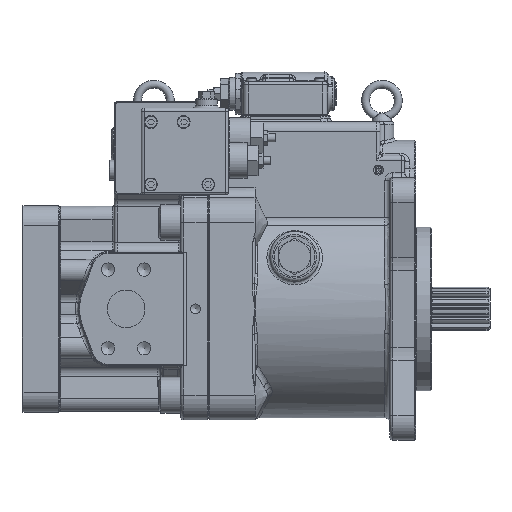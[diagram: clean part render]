
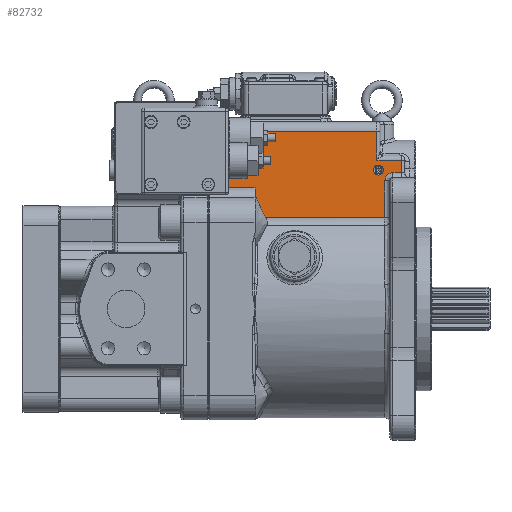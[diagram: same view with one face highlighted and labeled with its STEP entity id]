
A CAD part, left-side view. The second image highlights one B-rep face of the part: STEP entity #82732.
In plain terms, the highlighted planar face has unit normal (-1, 0, 0).
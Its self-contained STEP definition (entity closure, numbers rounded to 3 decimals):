
#65556=CARTESIAN_POINT('',(-66.669,49.394,117.955));
#65557=VERTEX_POINT('',#65556);
#65558=CARTESIAN_POINT('',(-66.669,49.394,112.955));
#65559=DIRECTION('',(1.0,0.0,0.0));
#65560=DIRECTION('',(0.0,0.0,1.0));
#65561=AXIS2_PLACEMENT_3D('',#65558,#65559,#65560);
#65562=CIRCLE('',#65561,5.);
#65563=EDGE_CURVE('',#65557,#65557,#65562,.T.);
#68144=CARTESIAN_POINT('',(-66.669,219.894,151.955));
#68145=VERTEX_POINT('',#68144);
#68153=CARTESIAN_POINT('',(-66.669,50.894,151.955));
#68154=VERTEX_POINT('',#68153);
#68155=CARTESIAN_POINT('',(-66.669,219.894,151.955));
#68156=DIRECTION('',(0.0,-1.0,0.0));
#68157=VECTOR('',#68156,169.);
#68158=LINE('',#68155,#68157);
#68159=EDGE_CURVE('',#68145,#68154,#68158,.T.);
#71754=CARTESIAN_POINT('',(-66.669,163.32,64.993));
#71755=VERTEX_POINT('',#71754);
#71763=CARTESIAN_POINT('',(-66.669,173.894,86.955));
#71764=VERTEX_POINT('',#71763);
#71765=CARTESIAN_POINT('',(-66.669,173.894,86.955));
#71766=DIRECTION('',(0.0,-0.434,-0.901));
#71767=VECTOR('',#71766,24.375);
#71768=LINE('',#71765,#71767);
#71769=EDGE_CURVE('',#71764,#71755,#71768,.T.);
#78187=CARTESIAN_POINT('',(-66.669,50.894,122.955));
#78188=VERTEX_POINT('',#78187);
#81050=CARTESIAN_POINT('',(-66.669,50.894,151.955));
#81051=DIRECTION('',(0.0,0.0,-1.0));
#81052=VECTOR('',#81051,29.0);
#81053=LINE('',#81050,#81052);
#81054=EDGE_CURVE('',#68154,#78188,#81053,.T.);
#81672=CARTESIAN_POINT('',(-66.669,25.894,110.205));
#81673=VERTEX_POINT('',#81672);
#81706=CARTESIAN_POINT('',(-66.669,34.894,110.205));
#81707=VERTEX_POINT('',#81706);
#81724=CARTESIAN_POINT('',(-66.669,25.894,110.205));
#81725=DIRECTION('',(0.0,1.0,0.0));
#81726=VECTOR('',#81725,9.);
#81727=LINE('',#81724,#81726);
#81728=EDGE_CURVE('',#81673,#81707,#81727,.T.);
#81786=CARTESIAN_POINT('',(-66.669,42.894,102.205));
#81787=VERTEX_POINT('',#81786);
#81805=CARTESIAN_POINT('',(-66.669,34.894,102.205));
#81806=DIRECTION('',(-1.0,0.,0.));
#81807=DIRECTION('',(0.,0.707,0.707));
#81808=AXIS2_PLACEMENT_3D('',#81805,#81806,#81807);
#81809=CIRCLE('',#81808,8.0);
#81810=EDGE_CURVE('',#81707,#81787,#81809,.T.);
#81820=CARTESIAN_POINT('',(-66.669,42.894,64.993));
#81821=VERTEX_POINT('',#81820);
#81838=CARTESIAN_POINT('',(-66.669,42.894,102.205));
#81839=DIRECTION('',(0.0,0.0,-1.0));
#81840=VECTOR('',#81839,37.212);
#81841=LINE('',#81838,#81840);
#81842=EDGE_CURVE('',#81787,#81821,#81841,.T.);
#82576=CARTESIAN_POINT('',(-66.669,25.894,122.955));
#82577=VERTEX_POINT('',#82576);
#82634=CARTESIAN_POINT('',(-66.669,25.894,122.955));
#82635=DIRECTION('',(0.0,1.0,0.0));
#82636=VECTOR('',#82635,25.);
#82637=LINE('',#82634,#82636);
#82638=EDGE_CURVE('',#82577,#78188,#82637,.T.);
#82677=CARTESIAN_POINT('',(-66.669,25.894,122.955));
#82678=DIRECTION('',(0.0,0.0,-1.0));
#82679=VECTOR('',#82678,12.75);
#82680=LINE('',#82677,#82679);
#82681=EDGE_CURVE('',#82577,#81673,#82680,.T.);
#82686=CARTESIAN_POINT('',(-66.669,223.894,94.955));
#82687=DIRECTION('',(-1.0,0.0,0.0));
#82688=DIRECTION('',(0.0,0.0,1.0));
#82689=AXIS2_PLACEMENT_3D('',#82686,#82687,#82688);
#82690=PLANE('',#82689);
#82691=ORIENTED_EDGE('',*,*,#81054,.F.);
#82692=ORIENTED_EDGE('',*,*,#68159,.F.);
#82693=CARTESIAN_POINT('',(-66.669,219.894,94.955));
#82694=VERTEX_POINT('',#82693);
#82695=CARTESIAN_POINT('',(-66.669,219.894,94.955));
#82696=DIRECTION('',(0.0,0.0,1.0));
#82697=VECTOR('',#82696,57.);
#82698=LINE('',#82695,#82697);
#82699=EDGE_CURVE('',#82694,#68145,#82698,.T.);
#82700=ORIENTED_EDGE('',*,*,#82699,.F.);
#82701=CARTESIAN_POINT('',(-66.669,173.894,94.955));
#82702=VERTEX_POINT('',#82701);
#82703=CARTESIAN_POINT('',(-66.669,219.894,94.955));
#82704=DIRECTION('',(0.0,-1.0,0.0));
#82705=VECTOR('',#82704,46.0);
#82706=LINE('',#82703,#82705);
#82707=EDGE_CURVE('',#82694,#82702,#82706,.T.);
#82708=ORIENTED_EDGE('',*,*,#82707,.T.);
#82709=CARTESIAN_POINT('',(-66.669,173.894,86.955));
#82710=DIRECTION('',(0.0,0.0,1.0));
#82711=VECTOR('',#82710,8.);
#82712=LINE('',#82709,#82711);
#82713=EDGE_CURVE('',#71764,#82702,#82712,.T.);
#82714=ORIENTED_EDGE('',*,*,#82713,.F.);
#82715=ORIENTED_EDGE('',*,*,#71769,.T.);
#82716=CARTESIAN_POINT('',(-66.669,163.32,64.993));
#82717=DIRECTION('',(0.0,-1.0,0.0));
#82718=VECTOR('',#82717,120.426);
#82719=LINE('',#82716,#82718);
#82720=EDGE_CURVE('',#71755,#81821,#82719,.T.);
#82721=ORIENTED_EDGE('',*,*,#82720,.T.);
#82722=ORIENTED_EDGE('',*,*,#81842,.F.);
#82723=ORIENTED_EDGE('',*,*,#81810,.F.);
#82724=ORIENTED_EDGE('',*,*,#81728,.F.);
#82725=ORIENTED_EDGE('',*,*,#82681,.F.);
#82726=ORIENTED_EDGE('',*,*,#82638,.T.);
#82727=EDGE_LOOP('',(#82691,#82692,#82700,#82708,#82714,#82715,#82721,#82722,#82723,#82724,#82725,#82726));
#82728=FACE_OUTER_BOUND('',#82727,.T.);
#82729=ORIENTED_EDGE('',*,*,#65563,.T.);
#82730=EDGE_LOOP('',(#82729));
#82731=FACE_BOUND('',#82730,.T.);
#82732=ADVANCED_FACE('',(#82728,#82731),#82690,.T.);
